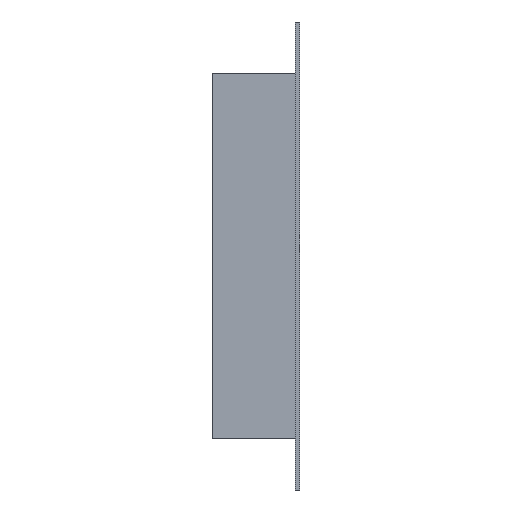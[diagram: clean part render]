
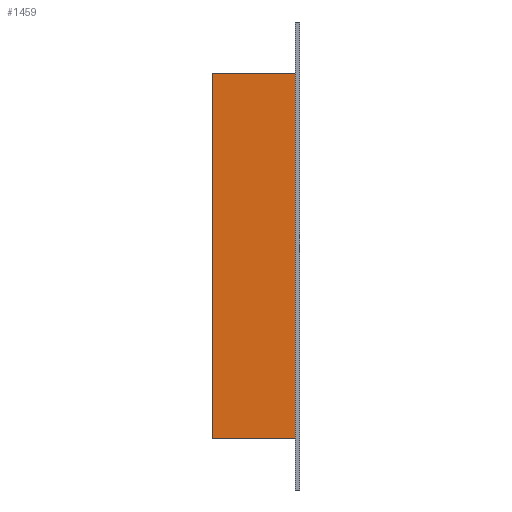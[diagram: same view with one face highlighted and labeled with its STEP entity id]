
A CAD part, left-side view. The second image highlights one B-rep face of the part: STEP entity #1459.
In plain terms, the highlighted planar face has unit normal (-1, 0, 0).
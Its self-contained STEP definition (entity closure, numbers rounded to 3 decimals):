
#84=FACE_OUTER_BOUND('',#161,.T.);
#161=EDGE_LOOP('',(#1306,#1307,#1308,#1309));
#366=LINE('',#2252,#573);
#368=LINE('',#2257,#575);
#369=LINE('',#2258,#576);
#370=LINE('',#2259,#577);
#573=VECTOR('',#1838,10.);
#575=VECTOR('',#1842,10.);
#576=VECTOR('',#1843,10.);
#577=VECTOR('',#1844,10.);
#719=VERTEX_POINT('',#2249);
#720=VERTEX_POINT('',#2251);
#721=VERTEX_POINT('',#2255);
#722=VERTEX_POINT('',#2256);
#918=EDGE_CURVE('',#720,#719,#366,.T.);
#920=EDGE_CURVE('',#721,#722,#368,.T.);
#921=EDGE_CURVE('',#720,#721,#369,.F.);
#922=EDGE_CURVE('',#719,#722,#370,.T.);
#1306=ORIENTED_EDGE('',*,*,#920,.F.);
#1307=ORIENTED_EDGE('',*,*,#921,.F.);
#1308=ORIENTED_EDGE('',*,*,#918,.T.);
#1309=ORIENTED_EDGE('',*,*,#922,.T.);
#1398=PLANE('',#1528);
#1459=ADVANCED_FACE('',(#84),#1398,.T.);
#1528=AXIS2_PLACEMENT_3D('',#2254,#1840,#1841);
#1838=DIRECTION('',(0.,0.,1.));
#1840=DIRECTION('center_axis',(-1.,0.,0.));
#1841=DIRECTION('ref_axis',(0.,0.,1.));
#1842=DIRECTION('',(0.,0.,1.));
#1843=DIRECTION('',(0.,-1.,0.));
#1844=DIRECTION('',(0.,1.,0.));
#2249=CARTESIAN_POINT('',(-125.5,-27.,125.5));
#2251=CARTESIAN_POINT('',(-125.5,-27.,-125.5));
#2252=CARTESIAN_POINT('',(-125.5,-27.,-61.25));
#2254=CARTESIAN_POINT('Origin',(-125.5,-30.,-122.5));
#2255=CARTESIAN_POINT('',(-125.5,30.,-125.5));
#2256=CARTESIAN_POINT('',(-125.5,30.,125.5));
#2257=CARTESIAN_POINT('',(-125.5,30.,-61.25));
#2258=CARTESIAN_POINT('',(-125.5,-30.,-125.5));
#2259=CARTESIAN_POINT('',(-125.5,-30.,125.5));
